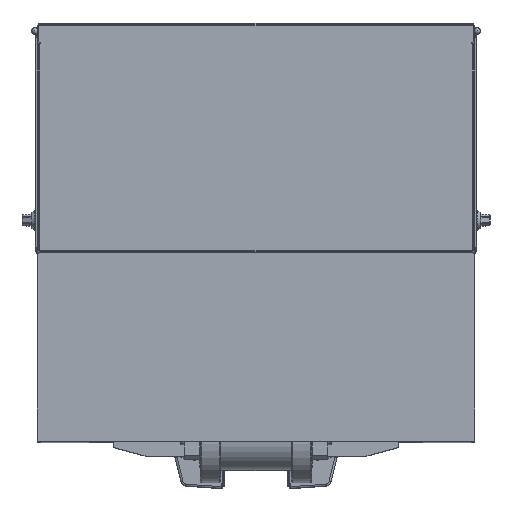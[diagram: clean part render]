
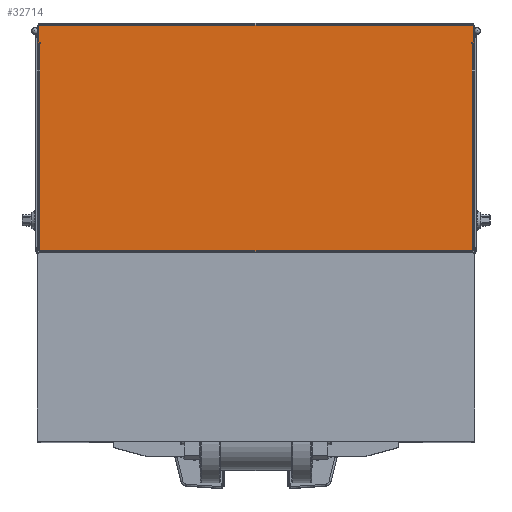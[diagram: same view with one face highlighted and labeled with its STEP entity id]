
A CAD part, top view. The second image highlights one B-rep face of the part: STEP entity #32714.
In plain terms, the highlighted planar face has unit normal (0, 0, 1).
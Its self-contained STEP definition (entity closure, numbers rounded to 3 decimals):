
#3339=FACE_OUTER_BOUND('',#5437,.T.);
#5437=EDGE_LOOP('',(#25514,#25515,#25516,#25517,#25518,#25519,#25520,#25521,
#25522,#25523,#25524,#25525,#25526,#25527));
#9060=LINE('',#58790,#11358);
#9061=LINE('',#58792,#11359);
#9062=LINE('',#58794,#11360);
#9063=LINE('',#58796,#11361);
#9064=LINE('',#58798,#11362);
#9065=LINE('',#58800,#11363);
#9066=LINE('',#58802,#11364);
#9067=LINE('',#58804,#11365);
#9068=LINE('',#58806,#11366);
#9069=LINE('',#58808,#11367);
#9070=LINE('',#58810,#11368);
#9071=LINE('',#58812,#11369);
#9072=LINE('',#58814,#11370);
#9073=LINE('',#58815,#11371);
#11358=VECTOR('',#43137,696.6);
#11359=VECTOR('',#43138,333.6);
#11360=VECTOR('',#43139,0.8);
#11361=VECTOR('',#43140,1.6);
#11362=VECTOR('',#43141,4.);
#11363=VECTOR('',#43142,28.4);
#11364=VECTOR('',#43143,3.2);
#11365=VECTOR('',#43144,696.6);
#11366=VECTOR('',#43145,3.2);
#11367=VECTOR('',#43146,28.4);
#11368=VECTOR('',#43147,4.);
#11369=VECTOR('',#43148,1.6);
#11370=VECTOR('',#43149,0.8);
#11371=VECTOR('',#43150,333.6);
#14260=VERTEX_POINT('',#58788);
#14261=VERTEX_POINT('',#58789);
#14262=VERTEX_POINT('',#58791);
#14263=VERTEX_POINT('',#58793);
#14264=VERTEX_POINT('',#58795);
#14265=VERTEX_POINT('',#58797);
#14266=VERTEX_POINT('',#58799);
#14267=VERTEX_POINT('',#58801);
#14268=VERTEX_POINT('',#58803);
#14269=VERTEX_POINT('',#58805);
#14270=VERTEX_POINT('',#58807);
#14271=VERTEX_POINT('',#58809);
#14272=VERTEX_POINT('',#58811);
#14273=VERTEX_POINT('',#58813);
#18210=EDGE_CURVE('',#14260,#14261,#9060,.T.);
#18211=EDGE_CURVE('',#14261,#14262,#9061,.T.);
#18212=EDGE_CURVE('',#14262,#14263,#9062,.T.);
#18213=EDGE_CURVE('',#14263,#14264,#9063,.T.);
#18214=EDGE_CURVE('',#14264,#14265,#9064,.T.);
#18215=EDGE_CURVE('',#14266,#14265,#9065,.T.);
#18216=EDGE_CURVE('',#14267,#14266,#9066,.T.);
#18217=EDGE_CURVE('',#14268,#14267,#9067,.T.);
#18218=EDGE_CURVE('',#14269,#14268,#9068,.T.);
#18219=EDGE_CURVE('',#14270,#14269,#9069,.T.);
#18220=EDGE_CURVE('',#14270,#14271,#9070,.T.);
#18221=EDGE_CURVE('',#14271,#14272,#9071,.T.);
#18222=EDGE_CURVE('',#14272,#14273,#9072,.T.);
#18223=EDGE_CURVE('',#14273,#14260,#9073,.T.);
#25514=ORIENTED_EDGE('',*,*,#18210,.T.);
#25515=ORIENTED_EDGE('',*,*,#18211,.T.);
#25516=ORIENTED_EDGE('',*,*,#18212,.T.);
#25517=ORIENTED_EDGE('',*,*,#18213,.T.);
#25518=ORIENTED_EDGE('',*,*,#18214,.T.);
#25519=ORIENTED_EDGE('',*,*,#18215,.F.);
#25520=ORIENTED_EDGE('',*,*,#18216,.F.);
#25521=ORIENTED_EDGE('',*,*,#18217,.F.);
#25522=ORIENTED_EDGE('',*,*,#18218,.F.);
#25523=ORIENTED_EDGE('',*,*,#18219,.F.);
#25524=ORIENTED_EDGE('',*,*,#18220,.T.);
#25525=ORIENTED_EDGE('',*,*,#18221,.T.);
#25526=ORIENTED_EDGE('',*,*,#18222,.T.);
#25527=ORIENTED_EDGE('',*,*,#18223,.T.);
#29133=PLANE('',#35785);
#32714=ADVANCED_FACE('',(#3339),#29133,.F.);
#35785=AXIS2_PLACEMENT_3D('',#58787,#43135,#43136);
#43135=DIRECTION('center_axis',(0.,0.,
-1.));
#43136=DIRECTION('ref_axis',(0.,-1.,0.));
#43137=DIRECTION('',(1.,0.,0.));
#43138=DIRECTION('',(0.,1.,0.));
#43139=DIRECTION('',(-1.,0.,0.));
#43140=DIRECTION('',(0.,1.,0.));
#43141=DIRECTION('',(1.,0.,0.));
#43142=DIRECTION('',(0.,-1.,0.));
#43143=DIRECTION('',(1.,0.,0.));
#43144=DIRECTION('',(1.,0.,0.));
#43145=DIRECTION('',(1.,0.,0.));
#43146=DIRECTION('',(0.,1.,0.));
#43147=DIRECTION('',(1.,0.,0.));
#43148=DIRECTION('',(0.,-1.,0.));
#43149=DIRECTION('',(-1.,0.,0.));
#43150=DIRECTION('',(0.,-1.,0.));
#58787=CARTESIAN_POINT('Origin',(0.,337.5,
847.4));
#58788=CARTESIAN_POINT('',(-348.3,155.7,847.4));
#58789=CARTESIAN_POINT('',(348.3,155.7,847.4));
#58790=CARTESIAN_POINT('',(-174.15,155.7,847.4));
#58791=CARTESIAN_POINT('',(348.3,489.3,847.4));
#58792=CARTESIAN_POINT('',(348.3,413.4,847.4));
#58793=CARTESIAN_POINT('',(347.5,489.3,847.4));
#58794=CARTESIAN_POINT('',(175.75,489.3,847.4));
#58795=CARTESIAN_POINT('',(347.5,490.9,847.4));
#58796=CARTESIAN_POINT('',(347.5,413.4,847.4));
#58797=CARTESIAN_POINT('',(351.5,490.9,847.4));
#58798=CARTESIAN_POINT('',(173.75,490.9,847.4));
#58799=CARTESIAN_POINT('',(351.5,519.3,847.4));
#58800=CARTESIAN_POINT('',(351.5,152.5,847.4));
#58801=CARTESIAN_POINT('',(348.3,519.3,847.4));
#58802=CARTESIAN_POINT('',(351.5,519.3,847.4));
#58803=CARTESIAN_POINT('',(-348.3,519.3,847.4));
#58804=CARTESIAN_POINT('',(351.5,519.3,847.4));
#58805=CARTESIAN_POINT('',(-351.5,519.3,847.4));
#58806=CARTESIAN_POINT('',(351.5,519.3,847.4));
#58807=CARTESIAN_POINT('',(-351.5,490.9,847.4));
#58808=CARTESIAN_POINT('',(-351.5,522.5,847.4));
#58809=CARTESIAN_POINT('',(-347.5,490.9,847.4));
#58810=CARTESIAN_POINT('',(-175.75,490.9,847.4));
#58811=CARTESIAN_POINT('',(-347.5,489.3,847.4));
#58812=CARTESIAN_POINT('',(-347.5,414.2,847.4));
#58813=CARTESIAN_POINT('',(-348.3,489.3,847.4));
#58814=CARTESIAN_POINT('',(-173.75,489.3,847.4));
#58815=CARTESIAN_POINT('',(-348.3,245.,847.4));
